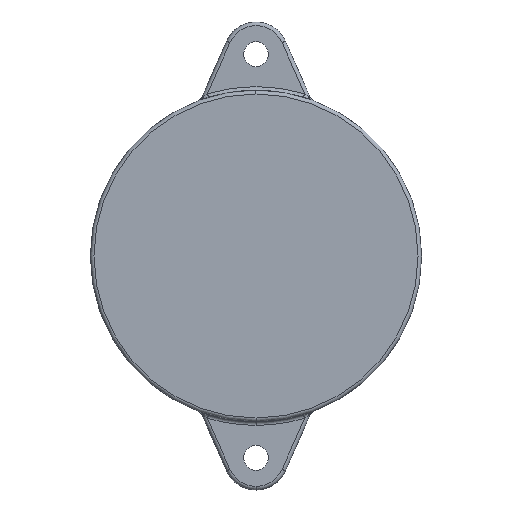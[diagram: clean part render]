
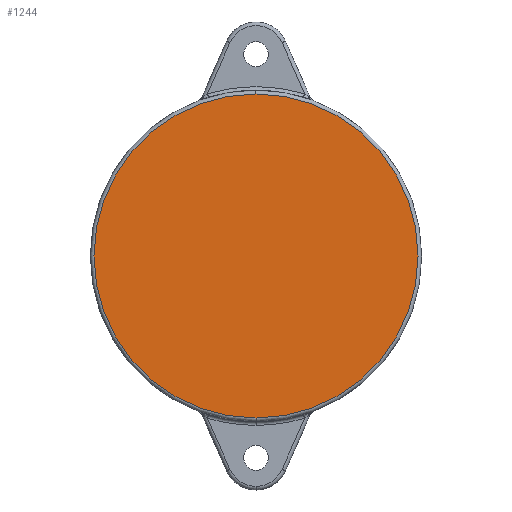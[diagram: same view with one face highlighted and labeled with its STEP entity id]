
A CAD part, left-side view. The second image highlights one B-rep face of the part: STEP entity #1244.
In plain terms, the highlighted planar face has unit normal (-1, 0, 0).
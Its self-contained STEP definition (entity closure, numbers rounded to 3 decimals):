
#21 = AXIS2_PLACEMENT_3D ( 'NONE', #382, #402, #2305 ) ;
#296 = DIRECTION ( 'NONE',  ( 1., 0., 0. ) ) ;
#382 = CARTESIAN_POINT ( 'NONE',  ( -6.175, 0., 0. ) ) ;
#402 = DIRECTION ( 'NONE',  ( -1., 0., 0. ) ) ;
#648 = CIRCLE ( 'NONE', #804, 17.6 ) ;
#804 = AXIS2_PLACEMENT_3D ( 'NONE', #2994, #1044, #1092 ) ;
#963 = CIRCLE ( 'NONE', #21, 17.6 ) ;
#988 = FACE_OUTER_BOUND ( 'NONE', #2852, .T. ) ;
#1044 = DIRECTION ( 'NONE',  ( -1., 0., 0. ) ) ;
#1092 = DIRECTION ( 'NONE',  ( 0., 0., -1. ) ) ;
#1099 = EDGE_CURVE ( 'NONE', #1912, #1166, #648, .T. ) ;
#1166 = VERTEX_POINT ( 'NONE', #2493 ) ;
#1224 = ORIENTED_EDGE ( 'NONE', *, *, #2005, .T. ) ;
#1244 = ADVANCED_FACE ( 'NONE', ( #988 ), #2910, .F. ) ;
#1581 = ORIENTED_EDGE ( 'NONE', *, *, #1099, .T. ) ;
#1912 = VERTEX_POINT ( 'NONE', #2038 ) ;
#2005 = EDGE_CURVE ( 'NONE', #1166, #1912, #963, .T. ) ;
#2038 = CARTESIAN_POINT ( 'NONE',  ( -6.175, 0., 17.6 ) ) ;
#2064 = AXIS2_PLACEMENT_3D ( 'NONE', #2890, #296, #2924 ) ;
#2305 = DIRECTION ( 'NONE',  ( 0., 0., -1. ) ) ;
#2493 = CARTESIAN_POINT ( 'NONE',  ( -6.175, 0., -17.6 ) ) ;
#2852 = EDGE_LOOP ( 'NONE', ( #1224, #1581 ) ) ;
#2890 = CARTESIAN_POINT ( 'NONE',  ( -6.175, 0., 0. ) ) ;
#2910 = PLANE ( 'NONE',  #2064 ) ;
#2924 = DIRECTION ( 'NONE',  ( 0., 0., -1. ) ) ;
#2994 = CARTESIAN_POINT ( 'NONE',  ( -6.175, 0., 0. ) ) ;
